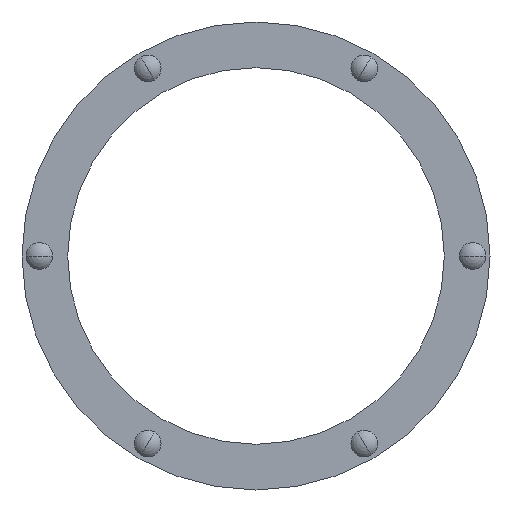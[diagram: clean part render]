
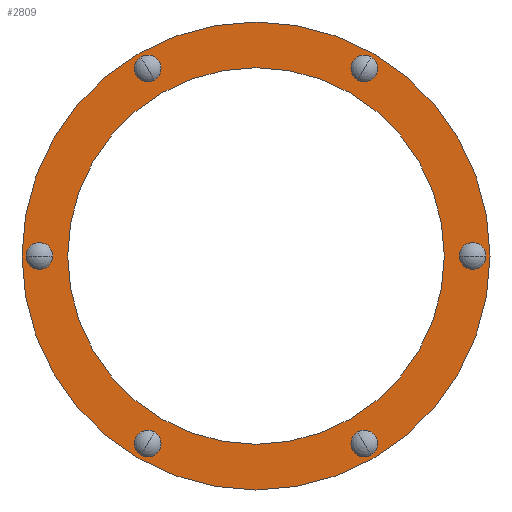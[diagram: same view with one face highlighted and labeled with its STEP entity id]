
A CAD part, front view. The second image highlights one B-rep face of the part: STEP entity #2809.
In plain terms, the highlighted planar face has unit normal (0, -1, 0).
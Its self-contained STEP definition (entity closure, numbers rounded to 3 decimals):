
#568=CARTESIAN_POINT('',(0.,-92.,0.));
#569=DIRECTION('',(0.,1.,0.));
#570=DIRECTION('',(0.,0.,1.));
#571=AXIS2_PLACEMENT_3D('',#568,#569,#570);
#573=CARTESIAN_POINT('',(0.,-92.,0.));
#574=DIRECTION('',(0.,1.,0.));
#575=DIRECTION('',(-0.866,0.,0.5));
#576=AXIS2_PLACEMENT_3D('',#573,#574,#575);
#582=CARTESIAN_POINT('',(0.,-92.,0.));
#583=DIRECTION('',(0.,1.,0.));
#584=DIRECTION('',(0.,0.,1.));
#585=AXIS2_PLACEMENT_3D('',#582,#583,#584);
#587=CARTESIAN_POINT('',(0.,-92.,0.));
#588=DIRECTION('',(0.,1.,0.));
#589=DIRECTION('',(-0.866,0.,0.5));
#590=AXIS2_PLACEMENT_3D('',#587,#588,#589);
#592=CARTESIAN_POINT('',(-103.25,-92.,178.834));
#593=DIRECTION('',(0.,1.,0.));
#594=DIRECTION('',(-0.5,0.,0.866));
#595=AXIS2_PLACEMENT_3D('',#592,#593,#594);
#597=CARTESIAN_POINT('',(-103.25,-92.,178.834));
#598=DIRECTION('',(0.,1.,0.));
#599=DIRECTION('',(0.5,0.,-0.866));
#600=AXIS2_PLACEMENT_3D('',#597,#598,#599);
#602=CARTESIAN_POINT('',(103.25,-92.,178.834));
#603=DIRECTION('',(0.,1.,0.));
#604=DIRECTION('',(0.5,0.,0.866));
#605=AXIS2_PLACEMENT_3D('',#602,#603,#604);
#607=CARTESIAN_POINT('',(103.25,-92.,178.834));
#608=DIRECTION('',(0.,1.,0.));
#609=DIRECTION('',(-0.5,0.,-0.866));
#610=AXIS2_PLACEMENT_3D('',#607,#608,#609);
#612=CARTESIAN_POINT('',(206.5,-92.,0.));
#613=DIRECTION('',(0.,1.,0.));
#614=DIRECTION('',(1.,0.,0.));
#615=AXIS2_PLACEMENT_3D('',#612,#613,#614);
#617=CARTESIAN_POINT('',(206.5,-92.,0.));
#618=DIRECTION('',(0.,1.,0.));
#619=DIRECTION('',(-1.,0.,0.));
#620=AXIS2_PLACEMENT_3D('',#617,#618,#619);
#622=CARTESIAN_POINT('',(103.25,-92.,-178.834));
#623=DIRECTION('',(0.,1.,0.));
#624=DIRECTION('',(0.5,0.,-0.866));
#625=AXIS2_PLACEMENT_3D('',#622,#623,#624);
#627=CARTESIAN_POINT('',(103.25,-92.,-178.834));
#628=DIRECTION('',(0.,1.,0.));
#629=DIRECTION('',(-0.5,0.,0.866));
#630=AXIS2_PLACEMENT_3D('',#627,#628,#629);
#632=CARTESIAN_POINT('',(-103.25,-92.,-178.834));
#633=DIRECTION('',(0.,1.,0.));
#634=DIRECTION('',(-0.5,0.,-0.866));
#635=AXIS2_PLACEMENT_3D('',#632,#633,#634);
#637=CARTESIAN_POINT('',(-103.25,-92.,-178.834));
#638=DIRECTION('',(0.,1.,0.));
#639=DIRECTION('',(0.5,0.,0.866));
#640=AXIS2_PLACEMENT_3D('',#637,#638,#639);
#642=CARTESIAN_POINT('',(-206.5,-92.,0.));
#643=DIRECTION('',(0.,1.,0.));
#644=DIRECTION('',(-1.,0.,0.));
#645=AXIS2_PLACEMENT_3D('',#642,#643,#644);
#647=CARTESIAN_POINT('',(-206.5,-92.,0.));
#648=DIRECTION('',(0.,1.,0.));
#649=DIRECTION('',(1.,0.,0.));
#650=AXIS2_PLACEMENT_3D('',#647,#648,#649);
#2104=CARTESIAN_POINT('',(-219.25,-92.,0.));
#2105=CARTESIAN_POINT('',(-193.75,-92.,0.));
#2106=VERTEX_POINT('',#2104);
#2107=VERTEX_POINT('',#2105);
#2162=CARTESIAN_POINT('',(-109.625,-92.,-189.876));
#2163=CARTESIAN_POINT('',(-96.875,-92.,-167.792));
#2164=VERTEX_POINT('',#2162);
#2165=VERTEX_POINT('',#2163);
#2220=CARTESIAN_POINT('',(109.625,-92.,-189.876));
#2221=CARTESIAN_POINT('',(96.875,-92.,-167.792));
#2222=VERTEX_POINT('',#2220);
#2223=VERTEX_POINT('',#2221);
#2278=CARTESIAN_POINT('',(219.25,-92.,0.));
#2279=CARTESIAN_POINT('',(193.75,-92.,0.));
#2280=VERTEX_POINT('',#2278);
#2281=VERTEX_POINT('',#2279);
#2336=CARTESIAN_POINT('',(109.625,-92.,189.876));
#2337=CARTESIAN_POINT('',(96.875,-92.,167.792));
#2338=VERTEX_POINT('',#2336);
#2339=VERTEX_POINT('',#2337);
#2394=CARTESIAN_POINT('',(-109.625,-92.,189.876));
#2395=CARTESIAN_POINT('',(-96.875,-92.,167.792));
#2396=VERTEX_POINT('',#2394);
#2397=VERTEX_POINT('',#2395);
#2410=CARTESIAN_POINT('',(-193.21,-92.,111.55));
#2411=VERTEX_POINT('',#2410);
#2412=CARTESIAN_POINT('',(-155.452,-92.,89.75));
#2414=VERTEX_POINT('',#2412);
#2438=CARTESIAN_POINT('',(0.,-92.,223.1));
#2439=VERTEX_POINT('',#2438);
#2440=CARTESIAN_POINT('',(0.,-92.,179.5));
#2442=VERTEX_POINT('',#2440);
#2758=CARTESIAN_POINT('',(0.,-92.,0.));
#2759=DIRECTION('',(0.,1.,0.));
#2760=DIRECTION('',(0.866,0.,0.5));
#2761=AXIS2_PLACEMENT_3D('',#2758,#2759,#2760);
#2762=PLANE('',#2761);
#2764=ORIENTED_EDGE('',*,*,#2763,.T.);
#2766=ORIENTED_EDGE('',*,*,#2765,.T.);
#2767=EDGE_LOOP('',(#2764,#2766));
#2768=FACE_OUTER_BOUND('',#2767,.F.);
#2770=ORIENTED_EDGE('',*,*,#2769,.F.);
#2772=ORIENTED_EDGE('',*,*,#2771,.F.);
#2773=EDGE_LOOP('',(#2770,#2772));
#2774=FACE_BOUND('',#2773,.F.);
#2776=ORIENTED_EDGE('',*,*,#2775,.F.);
#2778=ORIENTED_EDGE('',*,*,#2777,.F.);
#2779=EDGE_LOOP('',(#2776,#2778));
#2780=FACE_BOUND('',#2779,.F.);
#2782=ORIENTED_EDGE('',*,*,#2781,.F.);
#2784=ORIENTED_EDGE('',*,*,#2783,.F.);
#2785=EDGE_LOOP('',(#2782,#2784));
#2786=FACE_BOUND('',#2785,.F.);
#2788=ORIENTED_EDGE('',*,*,#2787,.F.);
#2790=ORIENTED_EDGE('',*,*,#2789,.F.);
#2791=EDGE_LOOP('',(#2788,#2790));
#2792=FACE_BOUND('',#2791,.F.);
#2794=ORIENTED_EDGE('',*,*,#2793,.F.);
#2796=ORIENTED_EDGE('',*,*,#2795,.F.);
#2797=EDGE_LOOP('',(#2794,#2796));
#2798=FACE_BOUND('',#2797,.F.);
#2800=ORIENTED_EDGE('',*,*,#2799,.F.);
#2802=ORIENTED_EDGE('',*,*,#2801,.F.);
#2803=EDGE_LOOP('',(#2800,#2802));
#2804=FACE_BOUND('',#2803,.F.);
#2805=ORIENTED_EDGE('',*,*,#2740,.F.);
#2806=ORIENTED_EDGE('',*,*,#2751,.F.);
#2807=EDGE_LOOP('',(#2805,#2806));
#2808=FACE_BOUND('',#2807,.F.);
#2809=ADVANCED_FACE('',(#2768,#2774,#2780,#2786,#2792,#2798,#2804,#2808),#2762,
.F.);
#572=CIRCLE('',#571,179.5);
#577=CIRCLE('',#576,179.5);
#586=CIRCLE('',#585,223.1);
#591=CIRCLE('',#590,223.1);
#596=CIRCLE('',#595,12.75);
#601=CIRCLE('',#600,12.75);
#606=CIRCLE('',#605,12.75);
#611=CIRCLE('',#610,12.75);
#616=CIRCLE('',#615,12.75);
#621=CIRCLE('',#620,12.75);
#626=CIRCLE('',#625,12.75);
#631=CIRCLE('',#630,12.75);
#636=CIRCLE('',#635,12.75);
#641=CIRCLE('',#640,12.75);
#646=CIRCLE('',#645,12.75);
#651=CIRCLE('',#650,12.75);
#2740=EDGE_CURVE('',#2442,#2414,#572,.T.);
#2751=EDGE_CURVE('',#2414,#2442,#577,.T.);
#2763=EDGE_CURVE('',#2439,#2411,#586,.T.);
#2765=EDGE_CURVE('',#2411,#2439,#591,.T.);
#2769=EDGE_CURVE('',#2396,#2397,#596,.T.);
#2771=EDGE_CURVE('',#2397,#2396,#601,.T.);
#2775=EDGE_CURVE('',#2338,#2339,#606,.T.);
#2777=EDGE_CURVE('',#2339,#2338,#611,.T.);
#2781=EDGE_CURVE('',#2280,#2281,#616,.T.);
#2783=EDGE_CURVE('',#2281,#2280,#621,.T.);
#2787=EDGE_CURVE('',#2222,#2223,#626,.T.);
#2789=EDGE_CURVE('',#2223,#2222,#631,.T.);
#2793=EDGE_CURVE('',#2164,#2165,#636,.T.);
#2795=EDGE_CURVE('',#2165,#2164,#641,.T.);
#2799=EDGE_CURVE('',#2106,#2107,#646,.T.);
#2801=EDGE_CURVE('',#2107,#2106,#651,.T.);
